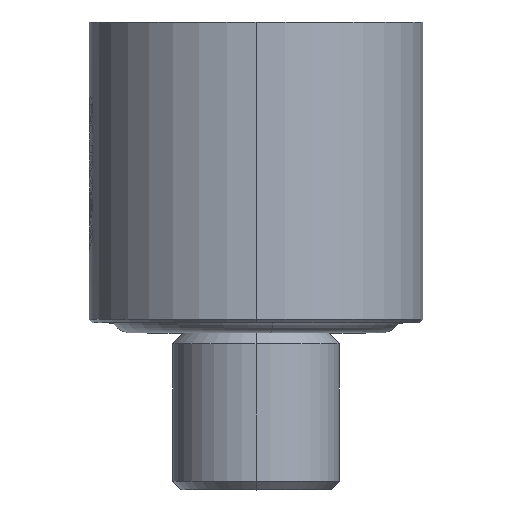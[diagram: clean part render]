
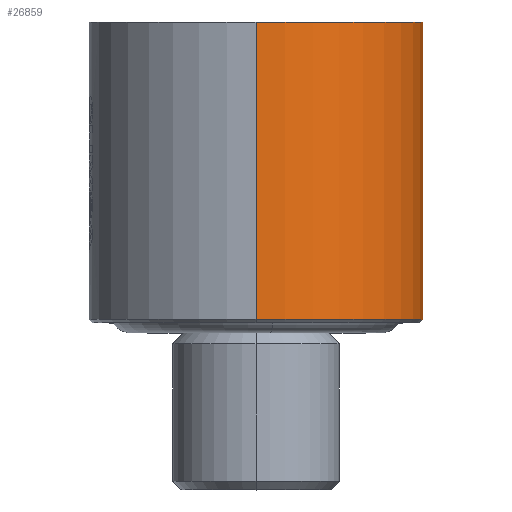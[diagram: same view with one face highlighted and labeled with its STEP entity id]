
A CAD part, top view. The second image highlights one B-rep face of the part: STEP entity #26859.
In plain terms, the highlighted cylindrical face has radius 10 mm (diameter 20 mm), a partial arc.
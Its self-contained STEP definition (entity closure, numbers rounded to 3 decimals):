
#789 = EDGE_CURVE ( 'NONE', #22692, #11340, #25870, .T. ) ;
#3963 = CYLINDRICAL_SURFACE ( 'NONE', #4961, 10. ) ;
#4397 = DIRECTION ( 'NONE',  ( 0., 1., 0. ) ) ;
#4485 = CARTESIAN_POINT ( 'NONE',  ( 0., 0., 10. ) ) ;
#4961 = AXIS2_PLACEMENT_3D ( 'NONE', #10566, #25966, #14985 ) ;
#5034 = DIRECTION ( 'NONE',  ( 0., 0., 1. ) ) ;
#5228 = CARTESIAN_POINT ( 'NONE',  ( 0., 0.2, 0. ) ) ;
#7227 = DIRECTION ( 'NONE',  ( 0., -1., 0. ) ) ;
#9760 = VERTEX_POINT ( 'NONE', #18428 ) ;
#9967 = DIRECTION ( 'NONE',  ( 0., 1., 0. ) ) ;
#10566 = CARTESIAN_POINT ( 'NONE',  ( 0., 0., 0. ) ) ;
#10614 = ORIENTED_EDGE ( 'NONE', *, *, #16373, .F. ) ;
#11340 = VERTEX_POINT ( 'NONE', #19689 ) ;
#12546 = EDGE_LOOP ( 'NONE', ( #21023, #22309, #28009, #10614 ) ) ;
#14903 = FACE_OUTER_BOUND ( 'NONE', #12546, .T. ) ;
#14985 = DIRECTION ( 'NONE',  ( 0., 0., 1. ) ) ;
#16373 = EDGE_CURVE ( 'NONE', #11340, #23918, #24721, .T. ) ;
#16543 = AXIS2_PLACEMENT_3D ( 'NONE', #23126, #9967, #20848 ) ;
#17138 = LINE ( 'NONE', #17433, #28118 ) ;
#17433 = CARTESIAN_POINT ( 'NONE',  ( 0., 0., -10. ) ) ;
#18428 = CARTESIAN_POINT ( 'NONE',  ( 0., 18., -10. ) ) ;
#19689 = CARTESIAN_POINT ( 'NONE',  ( 0., 0.2, 10. ) ) ;
#19874 = VECTOR ( 'NONE', #4397, 1000. ) ;
#20006 = CIRCLE ( 'NONE', #16543, 10. ) ;
#20848 = DIRECTION ( 'NONE',  ( 0., 0., -1. ) ) ;
#21023 = ORIENTED_EDGE ( 'NONE', *, *, #789, .F. ) ;
#21887 = DIRECTION ( 'NONE',  ( 0., 1., 0. ) ) ;
#22309 = ORIENTED_EDGE ( 'NONE', *, *, #24225, .T. ) ;
#22692 = VERTEX_POINT ( 'NONE', #27747 ) ;
#23126 = CARTESIAN_POINT ( 'NONE',  ( 0., 18., 0. ) ) ;
#23918 = VERTEX_POINT ( 'NONE', #27172 ) ;
#24225 = EDGE_CURVE ( 'NONE', #22692, #9760, #17138, .T. ) ;
#24500 = AXIS2_PLACEMENT_3D ( 'NONE', #5228, #7227, #5034 ) ;
#24721 = LINE ( 'NONE', #4485, #19874 ) ;
#25870 = CIRCLE ( 'NONE', #24500, 10. ) ;
#25966 = DIRECTION ( 'NONE',  ( 0., 1., 0. ) ) ;
#26859 = ADVANCED_FACE ( 'NONE', ( #14903 ), #3963, .T. ) ;
#27172 = CARTESIAN_POINT ( 'NONE',  ( 0., 18., 10. ) ) ;
#27747 = CARTESIAN_POINT ( 'NONE',  ( 0., 0.2, -10. ) ) ;
#27844 = EDGE_CURVE ( 'NONE', #23918, #9760, #20006, .T. ) ;
#28009 = ORIENTED_EDGE ( 'NONE', *, *, #27844, .F. ) ;
#28118 = VECTOR ( 'NONE', #21887, 1000. ) ;
